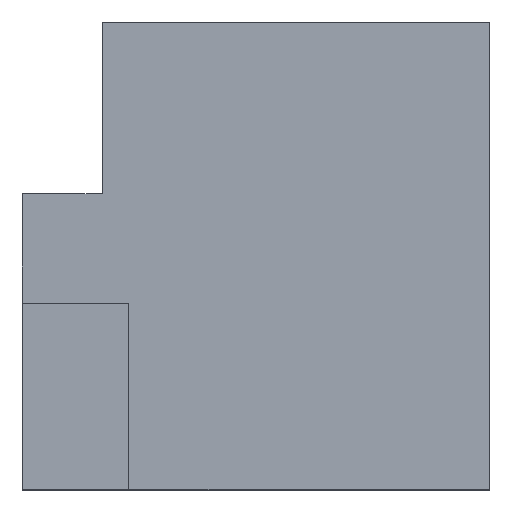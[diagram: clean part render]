
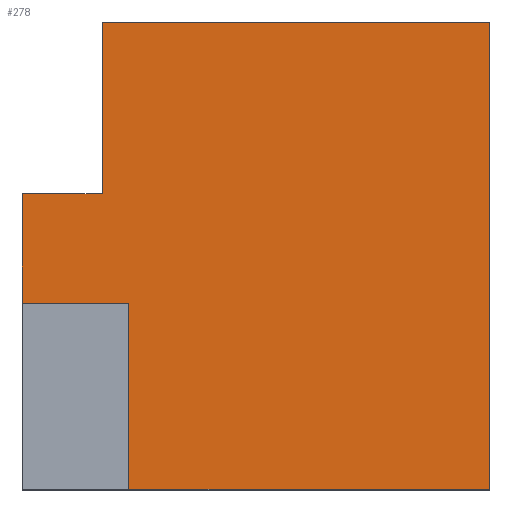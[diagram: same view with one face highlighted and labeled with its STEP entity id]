
A CAD part, top view. The second image highlights one B-rep face of the part: STEP entity #278.
In plain terms, the highlighted planar face has unit normal (0, 0, 1).
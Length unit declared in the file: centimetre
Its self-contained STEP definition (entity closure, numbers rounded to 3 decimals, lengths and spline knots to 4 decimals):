
#4 = DIRECTION ( 'NONE',  ( 0., 0., 1. ) ) ;
#52 = VECTOR ( 'NONE', #343, 100. ) ;
#54 = EDGE_CURVE ( 'NONE', #534, #559, #293, .T. ) ;
#56 = LINE ( 'NONE', #513, #82 ) ;
#62 = CARTESIAN_POINT ( 'NONE',  ( 227.7997, 0., 1000. ) ) ;
#66 = VECTOR ( 'NONE', #167, 100. ) ;
#82 = VECTOR ( 'NONE', #451, 100. ) ;
#85 = CARTESIAN_POINT ( 'NONE',  ( 0., 632.1674, 1000. ) ) ;
#86 = CARTESIAN_POINT ( 'NONE',  ( 227.7997, 398.3616, 1000. ) ) ;
#121 = VERTEX_POINT ( 'NONE', #835 ) ;
#123 = EDGE_CURVE ( 'NONE', #177, #426, #228, .T. ) ;
#125 = LINE ( 'NONE', #665, #655 ) ;
#128 = ORIENTED_EDGE ( 'NONE', *, *, #123, .T. ) ;
#133 = CARTESIAN_POINT ( 'NONE',  ( 1000., 1000., 1000. ) ) ;
#154 = DIRECTION ( 'NONE',  ( 0., 1., 0. ) ) ;
#167 = DIRECTION ( 'NONE',  ( -1., 0., 0. ) ) ;
#168 = ORIENTED_EDGE ( 'NONE', *, *, #361, .F. ) ;
#177 = VERTEX_POINT ( 'NONE', #62 ) ;
#187 = ORIENTED_EDGE ( 'NONE', *, *, #584, .F. ) ;
#188 = AXIS2_PLACEMENT_3D ( 'NONE', #671, #4, #756 ) ;
#221 = ORIENTED_EDGE ( 'NONE', *, *, #54, .T. ) ;
#228 = LINE ( 'NONE', #300, #436 ) ;
#232 = EDGE_LOOP ( 'NONE', ( #297, #128, #540, #221, #168, #388, #274, #187 ) ) ;
#251 = VERTEX_POINT ( 'NONE', #85 ) ;
#264 = CARTESIAN_POINT ( 'NONE',  ( 0., 398.3616, 1000. ) ) ;
#270 = VECTOR ( 'NONE', #531, 100. ) ;
#274 = ORIENTED_EDGE ( 'NONE', *, *, #786, .T. ) ;
#278 = ADVANCED_FACE ( 'NONE', ( #619 ), #677, .T. ) ;
#293 = LINE ( 'NONE', #718, #367 ) ;
#297 = ORIENTED_EDGE ( 'NONE', *, *, #489, .T. ) ;
#300 = CARTESIAN_POINT ( 'NONE',  ( 0., 0., 1000. ) ) ;
#343 = DIRECTION ( 'NONE',  ( 1., 0., 0. ) ) ;
#361 = EDGE_CURVE ( 'NONE', #121, #559, #832, .T. ) ;
#365 = DIRECTION ( 'NONE',  ( -1., 0., 0. ) ) ;
#367 = VECTOR ( 'NONE', #365, 100. ) ;
#380 = EDGE_CURVE ( 'NONE', #426, #534, #408, .T. ) ;
#388 = ORIENTED_EDGE ( 'NONE', *, *, #640, .F. ) ;
#408 = LINE ( 'NONE', #133, #270 ) ;
#426 = VERTEX_POINT ( 'NONE', #737 ) ;
#436 = VECTOR ( 'NONE', #642, 100. ) ;
#439 = CARTESIAN_POINT ( 'NONE',  ( 170.7041, 1000., 1000. ) ) ;
#451 = DIRECTION ( 'NONE',  ( 0., -1., 0. ) ) ;
#481 = VERTEX_POINT ( 'NONE', #264 ) ;
#487 = LINE ( 'NONE', #768, #66 ) ;
#489 = EDGE_CURVE ( 'NONE', #649, #177, #56, .T. ) ;
#513 = CARTESIAN_POINT ( 'NONE',  ( 227.7997, 398.3616, 1000. ) ) ;
#531 = DIRECTION ( 'NONE',  ( 0., 1., 0. ) ) ;
#534 = VERTEX_POINT ( 'NONE', #564 ) ;
#540 = ORIENTED_EDGE ( 'NONE', *, *, #380, .T. ) ;
#550 = CARTESIAN_POINT ( 'NONE',  ( 170.7041, 632.1674, 1000. ) ) ;
#559 = VERTEX_POINT ( 'NONE', #439 ) ;
#564 = CARTESIAN_POINT ( 'NONE',  ( 1000., 1000., 1000. ) ) ;
#584 = EDGE_CURVE ( 'NONE', #649, #481, #487, .T. ) ;
#619 = FACE_OUTER_BOUND ( 'NONE', #232, .T. ) ;
#640 = EDGE_CURVE ( 'NONE', #251, #121, #679, .T. ) ;
#642 = DIRECTION ( 'NONE',  ( 1., 0., 0. ) ) ;
#649 = VERTEX_POINT ( 'NONE', #86 ) ;
#655 = VECTOR ( 'NONE', #661, 100. ) ;
#661 = DIRECTION ( 'NONE',  ( 0., -1., 0. ) ) ;
#665 = CARTESIAN_POINT ( 'NONE',  ( 0., 1000., 1000. ) ) ;
#671 = CARTESIAN_POINT ( 'NONE',  ( 0., 0., 1000. ) ) ;
#677 = PLANE ( 'NONE',  #188 ) ;
#679 = LINE ( 'NONE', #814, #52 ) ;
#718 = CARTESIAN_POINT ( 'NONE',  ( 0., 1000., 1000. ) ) ;
#737 = CARTESIAN_POINT ( 'NONE',  ( 1000., 0., 1000. ) ) ;
#756 = DIRECTION ( 'NONE',  ( 1., 0., 0. ) ) ;
#768 = CARTESIAN_POINT ( 'NONE',  ( 0., 398.3616, 1000. ) ) ;
#786 = EDGE_CURVE ( 'NONE', #251, #481, #125, .T. ) ;
#805 = VECTOR ( 'NONE', #154, 100. ) ;
#814 = CARTESIAN_POINT ( 'NONE',  ( 0., 632.1674, 1000. ) ) ;
#832 = LINE ( 'NONE', #550, #805 ) ;
#835 = CARTESIAN_POINT ( 'NONE',  ( 170.7041, 632.1674, 1000. ) ) ;
